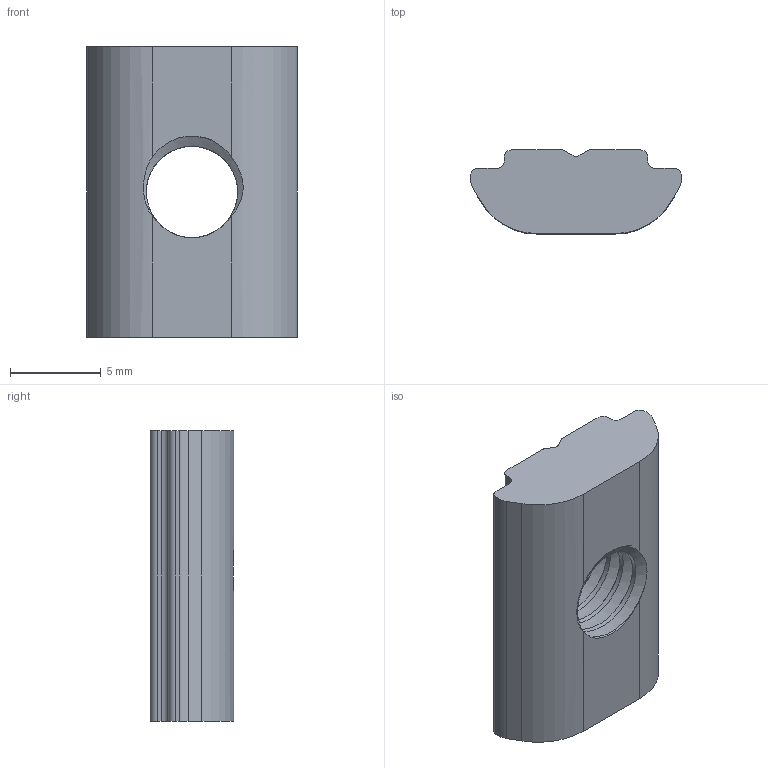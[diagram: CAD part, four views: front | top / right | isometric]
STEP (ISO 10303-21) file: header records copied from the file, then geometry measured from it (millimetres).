
FILE_DESCRIPTION(/* description */ ('STEP AP203'),/* implementation_level */ '2;1');
FILE_NAME(/* name */ 'M6 30 Series Roll In Nut - T-Slot - Zinc Plated.step',/* time_stamp */ '2024-08-20T23:31:07+03:00',/* author */ (''),/* organization */ (''),/* preprocessor_version */ 'ST-DEVELOPER v20',/* originating_system */ 'Autodesk Translation Framework v13.14.0.145',/* authorisation */ '');
FILE_SCHEMA (('AUTOMOTIVE_DESIGN { 1 0 10303 214 3 1 1 }'));
Length unit declared in the file: millimetre
Products named in the file (1): 2112.008.003
Bounding box: 11.6 x 4.6 x 16 mm (x, y, z)
Volume: 591.1 mm3; surface area: 624.5 mm2
Topology: 1 solids, 1 shells, 50 faces, 150 edges, 100 vertices
Faces by surface type: cylinder 29, plane 18, bspline 3
Full cylindrical faces by diameter (mm): 5.035 x1, 6.147 x1
Entity records: 2624 total; most frequent: CARTESIAN_POINT 1303, ORIENTED_EDGE 300, DIRECTION 233, EDGE_CURVE 150, VERTEX_POINT 100, AXIS2_PLACEMENT_3D 82, LINE 69, VECTOR 69
